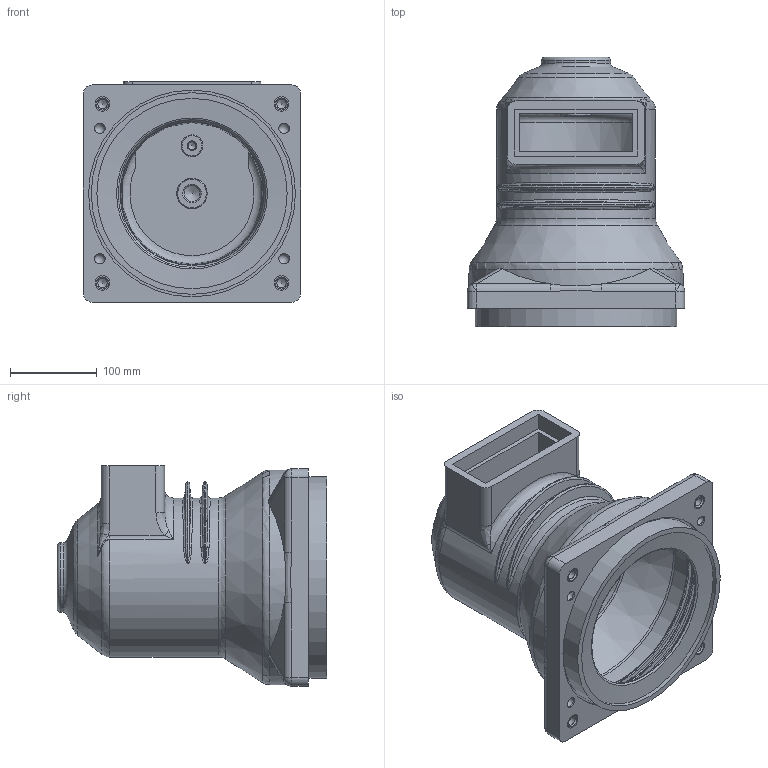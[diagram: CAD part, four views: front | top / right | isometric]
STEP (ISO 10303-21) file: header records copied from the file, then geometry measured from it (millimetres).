
FILE_DESCRIPTION(('STEP AP203'), '1');
FILE_NAME('ﾄ-ﾗﾝﾀﾇ-5-75-3150-ﾑ', '', ('UNSPECIFIED'), ('UNSPECIFIED'), 'ASCON STEP Converter 1.6', 'ASCON Math Kernel', '');
FILE_SCHEMA(('CONFIG_CONTROL_DESIGN'));
Length unit declared in the file: millimetre
Products named in the file (5): ﾄ-ﾗﾝﾀﾇ-5-75-3150-ﾑ; M20L24; M12L15; ﾈﾏﾝ-10-310-00.ﾓﾕﾋ2; M10L20
Assembly tree (7 placements, depth 2):
  ﾄ-ﾗﾝﾀﾇ-5-75-3150-ﾑ
    M20L24
    M12L15  x4
    ﾈﾏﾝ-10-310-00.ﾓﾕﾋ2
    M10L20
Bounding box: 250 x 310 x 253.5 mm (x, y, z)
Volume: 3408878.3 mm3; surface area: 533802 mm2
Topology: 7 solids, 7 shells, 292 faces, 985 edges, 686 vertices
Faces by surface type: cylinder 102, cone 63, bspline 54, plane 39, torus 23, sphere 11
Full cylindrical faces by diameter (mm): 9.026 x1, 10.86 x4, 12 x4, 14.998 x8, 16 x4, 17 x16, 18 x6, 18.37 x1, 25 x1, 28 x4, 30 x6, 35 x2, 80 x1, 170 x1, 183 x1, 214 x3, 219 x1, 224 x4, 232 x1, 238 x1
Entity records: 18464 total; most frequent: CARTESIAN_POINT 9178, DIRECTION 1452, ORIENTED_EDGE 1412, EDGE_CURVE 706, AXIS2_PLACEMENT_3D 686, VERTEX_POINT 593, CIRCLE 467, EDGE_LOOP 399
